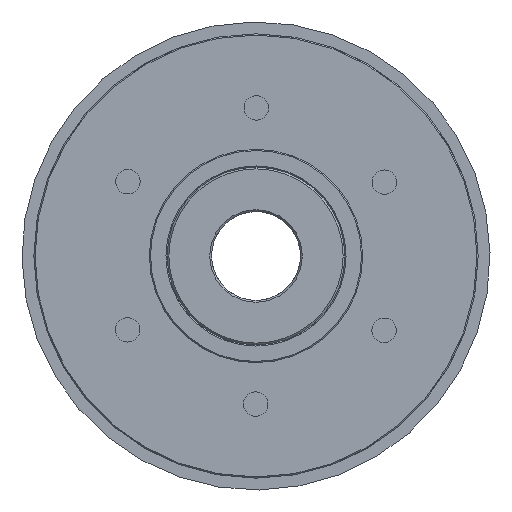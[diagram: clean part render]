
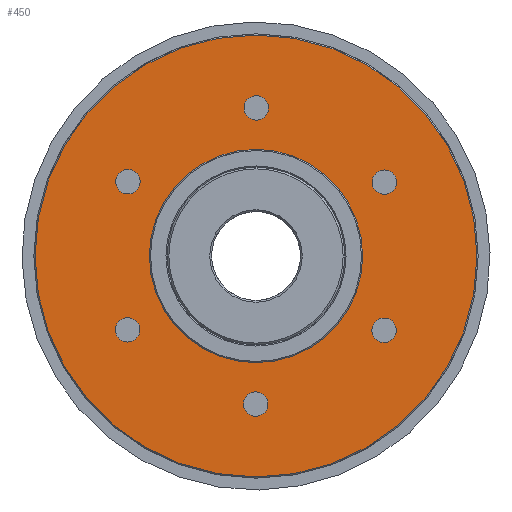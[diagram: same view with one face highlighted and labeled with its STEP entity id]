
A CAD part, left-side view. The second image highlights one B-rep face of the part: STEP entity #450.
In plain terms, the highlighted planar face has unit normal (-1, 0, 0).
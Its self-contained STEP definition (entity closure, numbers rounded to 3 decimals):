
#450 = ADVANCED_FACE( '', ( #905, #906, #907, #908, #909, #910, #911, #912 ), #913, .T. );
#905 = FACE_BOUND( '', #1507, .T. );
#906 = FACE_BOUND( '', #1508, .T. );
#907 = FACE_BOUND( '', #1509, .T. );
#908 = FACE_BOUND( '', #1510, .T. );
#909 = FACE_BOUND( '', #1511, .T. );
#910 = FACE_BOUND( '', #1512, .T. );
#911 = FACE_OUTER_BOUND( '', #1513, .T. );
#912 = FACE_BOUND( '', #1514, .T. );
#913 = PLANE( '', #1515 );
#1507 = EDGE_LOOP( '', ( #2127 ) );
#1508 = EDGE_LOOP( '', ( #2128 ) );
#1509 = EDGE_LOOP( '', ( #2129 ) );
#1510 = EDGE_LOOP( '', ( #2130 ) );
#1511 = EDGE_LOOP( '', ( #2131 ) );
#1512 = EDGE_LOOP( '', ( #2132 ) );
#1513 = EDGE_LOOP( '', ( #2133 ) );
#1514 = EDGE_LOOP( '', ( #2134 ) );
#1515 = AXIS2_PLACEMENT_3D( '', #2135, #2136, #2137 );
#2127 = ORIENTED_EDGE( '', *, *, #2958, .T. );
#2128 = ORIENTED_EDGE( '', *, *, #3012, .T. );
#2129 = ORIENTED_EDGE( '', *, *, #3013, .T. );
#2130 = ORIENTED_EDGE( '', *, *, #2924, .T. );
#2131 = ORIENTED_EDGE( '', *, *, #3014, .T. );
#2132 = ORIENTED_EDGE( '', *, *, #2999, .T. );
#2133 = ORIENTED_EDGE( '', *, *, #3015, .T. );
#2134 = ORIENTED_EDGE( '', *, *, #3016, .F. );
#2135 = CARTESIAN_POINT( '', ( 13., 0., 18. ) );
#2136 = DIRECTION( '', ( -1., 0., 0. ) );
#2137 = DIRECTION( '', ( 0., 0., 1. ) );
#2924 = EDGE_CURVE( '', #3271, #3271, #3272, .T. );
#2958 = EDGE_CURVE( '', #3329, #3329, #3330, .T. );
#2999 = EDGE_CURVE( '', #3396, #3396, #3397, .T. );
#3012 = EDGE_CURVE( '', #3419, #3419, #3420, .T. );
#3013 = EDGE_CURVE( '', #3421, #3421, #3422, .T. );
#3014 = EDGE_CURVE( '', #3423, #3423, #3424, .T. );
#3015 = EDGE_CURVE( '', #3425, #3425, #3426, .T. );
#3016 = EDGE_CURVE( '', #3427, #3427, #3428, .T. );
#3271 = VERTEX_POINT( '', #3782 );
#3272 = CIRCLE( '', #3783, 2.067 );
#3329 = VERTEX_POINT( '', #3857 );
#3330 = CIRCLE( '', #3858, 2.067 );
#3396 = VERTEX_POINT( '', #3938 );
#3397 = CIRCLE( '', #3939, 2.067 );
#3419 = VERTEX_POINT( '', #4114 );
#3420 = CIRCLE( '', #4115, 2.067 );
#3421 = VERTEX_POINT( '', #4116 );
#3422 = CIRCLE( '', #4117, 2.067 );
#3423 = VERTEX_POINT( '', #4118 );
#3424 = CIRCLE( '', #4119, 2.067 );
#3425 = VERTEX_POINT( '', #4120 );
#3426 = CIRCLE( '', #4121, 37.3 );
#3427 = VERTEX_POINT( '', #4122 );
#3428 = CIRCLE( '', #4123, 18. );
#3782 = CARTESIAN_POINT( '', ( 13., -23.441, -13.534 ) );
#3783 = AXIS2_PLACEMENT_3D( '', #4726, #4727, #4728 );
#3857 = CARTESIAN_POINT( '', ( 13., 23.441, 13.534 ) );
#3858 = AXIS2_PLACEMENT_3D( '', #4791, #4792, #4793 );
#3938 = CARTESIAN_POINT( '', ( 13., 0., 27.067 ) );
#3939 = AXIS2_PLACEMENT_3D( '', #4859, #4860, #4861 );
#4114 = CARTESIAN_POINT( '', ( 13., 23.441, -13.534 ) );
#4115 = AXIS2_PLACEMENT_3D( '', #4880, #4881, #4882 );
#4116 = CARTESIAN_POINT( '', ( 13., 0., -27.067 ) );
#4117 = AXIS2_PLACEMENT_3D( '', #4883, #4884, #4885 );
#4118 = CARTESIAN_POINT( '', ( 13., -23.441, 13.534 ) );
#4119 = AXIS2_PLACEMENT_3D( '', #4886, #4887, #4888 );
#4120 = CARTESIAN_POINT( '', ( 13., 0., 37.3 ) );
#4121 = AXIS2_PLACEMENT_3D( '', #4889, #4890, #4891 );
#4122 = CARTESIAN_POINT( '', ( 13., 0., 18. ) );
#4123 = AXIS2_PLACEMENT_3D( '', #4892, #4893, #4894 );
#4726 = CARTESIAN_POINT( '', ( 13., -21.651, -12.5 ) );
#4727 = DIRECTION( '', ( 1., 0., 0. ) );
#4728 = DIRECTION( '', ( 0., -0.866, -0.5 ) );
#4791 = CARTESIAN_POINT( '', ( 13., 21.651, 12.5 ) );
#4792 = DIRECTION( '', ( 1., 0., 0. ) );
#4793 = DIRECTION( '', ( 0., 0.866, 0.5 ) );
#4859 = CARTESIAN_POINT( '', ( 13., 0., 25. ) );
#4860 = DIRECTION( '', ( 1., 0., 0. ) );
#4861 = DIRECTION( '', ( 0., 0., 1. ) );
#4880 = CARTESIAN_POINT( '', ( 13., 21.651, -12.5 ) );
#4881 = DIRECTION( '', ( 1., 0., 0. ) );
#4882 = DIRECTION( '', ( 0., 0.866, -0.5 ) );
#4883 = CARTESIAN_POINT( '', ( 13., 0., -25. ) );
#4884 = DIRECTION( '', ( 1., 0., 0. ) );
#4885 = DIRECTION( '', ( 0., 0., -1. ) );
#4886 = CARTESIAN_POINT( '', ( 13., -21.651, 12.5 ) );
#4887 = DIRECTION( '', ( 1., 0., 0. ) );
#4888 = DIRECTION( '', ( 0., -0.866, 0.5 ) );
#4889 = CARTESIAN_POINT( '', ( 13., 0., 0. ) );
#4890 = DIRECTION( '', ( -1., 0., 0. ) );
#4891 = DIRECTION( '', ( 0., 0., 1. ) );
#4892 = CARTESIAN_POINT( '', ( 13., 0., 0. ) );
#4893 = DIRECTION( '', ( -1., 0., 0. ) );
#4894 = DIRECTION( '', ( 0., 0., 1. ) );
